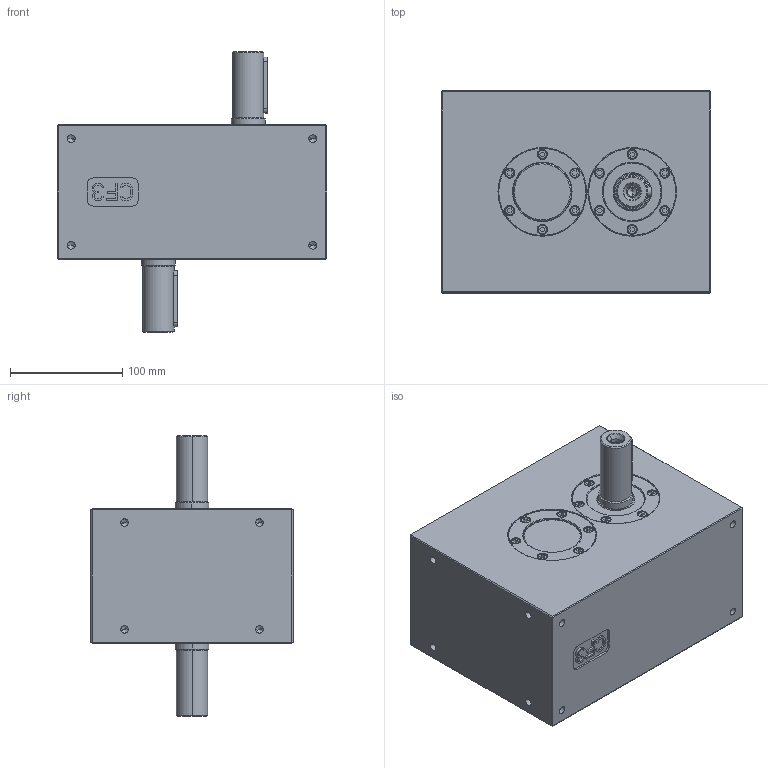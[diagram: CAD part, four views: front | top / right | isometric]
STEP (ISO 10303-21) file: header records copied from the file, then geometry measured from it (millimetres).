
FILE_DESCRIPTION((''),'2;1');
FILE_NAME('CF3_80P_VS_SW0001','2014-07-18T',('pdeponti'),(''),'PRO/ENGINEER BY PARAMETRIC TECHNOLOGY CORPORATION, 2011220','PRO/ENGINEER BY PARAMETRIC TECHNOLOGY CORPORATION, 2011220','');
FILE_SCHEMA(('AUTOMOTIVE_DESIGN_CC2 { 1 2 10303 214 -1 1 5 2 }'));
Length unit declared in the file: millimetre
Products named in the file (1): CF3_80P_VS_SW0001
Bounding box: 240 x 180 x 250 mm (x, y, z)
Volume: 5213145.5 mm3; surface area: 276524.3 mm2
Topology: 1 solids, 5 shells, 1119 faces, 2778 edges, 1756 vertices
Faces by surface type: plane 617, cylinder 340, cone 158, torus 4
Entity records: 41860 total; most frequent: CARTESIAN_POINT 6823, DIRECTION 5874, ORIENTED_EDGE 5484, EDGE_CURVE 2742, AXIS2_PLACEMENT_3D 2045, VECTOR 1784, LINE 1784, VERTEX_POINT 1756
